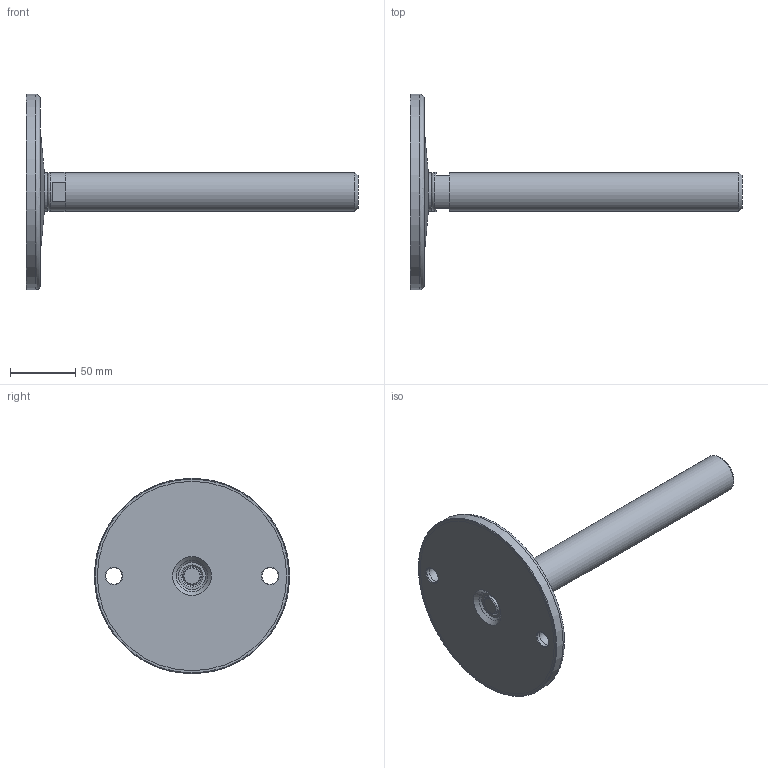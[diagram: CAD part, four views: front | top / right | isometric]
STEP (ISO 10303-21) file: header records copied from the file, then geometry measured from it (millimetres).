
FILE_DESCRIPTION(('STEP AP203'),'2;1');
FILE_NAME('15241.stp','2015-04-17T14:43:42',(''),(''),'2008.1.107','THINKDESIGN','');
FILE_SCHEMA(('CONFIG_CONTROL_DESIGN'));
Length unit declared in the file: millimetre
Bounding box: 255 x 150 x 150 mm (x, y, z)
Volume: 367915.7 mm3; surface area: 102354.2 mm2
Topology: 6 solids, 6 shells, 45 faces, 120 edges, 91 vertices
Faces by surface type: plane 19, bspline 14, cylinder 12
Full cylindrical faces by diameter (mm): 12.5 x4, 14 x1, 14.7 x1, 30 x3, 145.5 x2, 150 x1
Entity records: 2880 total; most frequent: CARTESIAN_POINT 1481, DIRECTION 271, ORIENTED_EDGE 238, AXIS2_PLACEMENT_3D 120, EDGE_CURVE 119, VERTEX_POINT 89, CIRCLE 89, EDGE_LOOP 60
